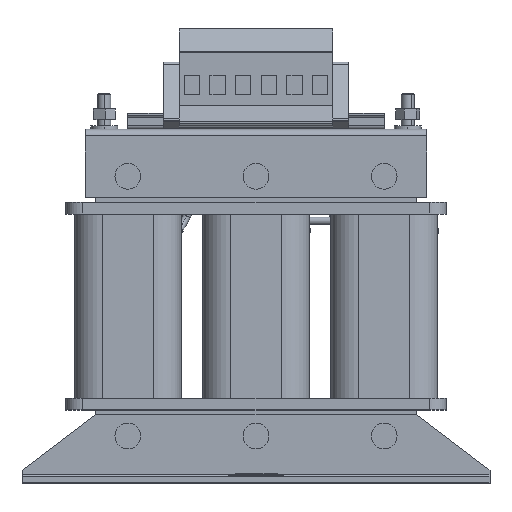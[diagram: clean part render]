
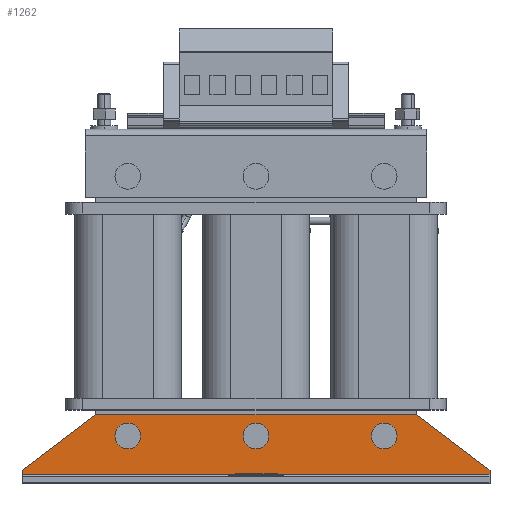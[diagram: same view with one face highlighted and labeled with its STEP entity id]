
A CAD part, top view. The second image highlights one B-rep face of the part: STEP entity #1262.
In plain terms, the highlighted planar face has unit normal (0, 0, 1).
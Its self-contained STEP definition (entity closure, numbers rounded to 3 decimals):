
#72 = CARTESIAN_POINT ( 'NONE',  ( -109.5, 4., 18.65 ) ) ;
#536 = EDGE_CURVE ( 'NONE', #16628, #12436, #6133, .T. ) ;
#608 = EDGE_LOOP ( 'NONE', ( #15287, #11006 ) ) ;
#676 = CARTESIAN_POINT ( 'NONE',  ( -66., 22., 18.65 ) ) ;
#1165 = DIRECTION ( 'NONE',  ( 0., 0., 1. ) ) ;
#1184 = LINE ( 'NONE', #6033, #13867 ) ;
#1262 = ADVANCED_FACE ( 'NONE', ( #15818, #13600, #13517, #4242 ), #8237, .T. ) ;
#1351 = EDGE_CURVE ( 'NONE', #16117, #6469, #4916, .T. ) ;
#1785 = DIRECTION ( 'NONE',  ( -1., 0., 0. ) ) ;
#1806 = EDGE_CURVE ( 'NONE', #13534, #8101, #7435, .T. ) ;
#2047 = CARTESIAN_POINT ( 'NONE',  ( 109.5, 6., 18.65 ) ) ;
#2114 = VERTEX_POINT ( 'NONE', #16104 ) ;
#2535 = ORIENTED_EDGE ( 'NONE', *, *, #16684, .F. ) ;
#2541 = CARTESIAN_POINT ( 'NONE',  ( -109.5, 6., 18.65 ) ) ;
#2706 = EDGE_CURVE ( 'NONE', #6469, #8101, #3726, .T. ) ;
#3047 = ORIENTED_EDGE ( 'NONE', *, *, #2706, .T. ) ;
#3229 = DIRECTION ( 'NONE',  ( 1., 0., 0. ) ) ;
#3316 = AXIS2_PLACEMENT_3D ( 'NONE', #13369, #10744, #15933 ) ;
#3328 = CIRCLE ( 'NONE', #16385, 6. ) ;
#3446 = CARTESIAN_POINT ( 'NONE',  ( 60., 22., 18.65 ) ) ;
#3489 = DIRECTION ( 'NONE',  ( -1., 0., 0. ) ) ;
#3700 = ORIENTED_EDGE ( 'NONE', *, *, #11972, .T. ) ;
#3726 = LINE ( 'NONE', #5002, #10227 ) ;
#3763 = CARTESIAN_POINT ( 'NONE',  ( -109.5, 0., 18.65 ) ) ;
#3789 = CARTESIAN_POINT ( 'NONE',  ( 75., 32., 18.65 ) ) ;
#3949 = VERTEX_POINT ( 'NONE', #2047 ) ;
#4074 = VERTEX_POINT ( 'NONE', #11636 ) ;
#4130 = AXIS2_PLACEMENT_3D ( 'NONE', #3446, #8787, #16714 ) ;
#4242 = FACE_OUTER_BOUND ( 'NONE', #10899, .T. ) ;
#4261 = CARTESIAN_POINT ( 'NONE',  ( 112.384, 3.827, 18.65 ) ) ;
#4331 = EDGE_CURVE ( 'NONE', #12436, #16628, #3328, .T. ) ;
#4413 = ORIENTED_EDGE ( 'NONE', *, *, #9155, .F. ) ;
#4916 = LINE ( 'NONE', #7229, #8603 ) ;
#5002 = CARTESIAN_POINT ( 'NONE',  ( 27.289, 109.087, 18.65 ) ) ;
#5361 = LINE ( 'NONE', #4261, #15050 ) ;
#5362 = VERTEX_POINT ( 'NONE', #13951 ) ;
#5698 = DIRECTION ( 'NONE',  ( -0.799, 0.602, 0. ) ) ;
#5921 = CARTESIAN_POINT ( 'NONE',  ( 0., 22., 18.65 ) ) ;
#6033 = CARTESIAN_POINT ( 'NONE',  ( 109.5, 0., 18.65 ) ) ;
#6133 = CIRCLE ( 'NONE', #9393, 6. ) ;
#6283 = VECTOR ( 'NONE', #1785, 1000. ) ;
#6416 = VECTOR ( 'NONE', #8947, 1000. ) ;
#6469 = VERTEX_POINT ( 'NONE', #8478 ) ;
#6670 = EDGE_CURVE ( 'NONE', #7406, #4074, #12409, .T. ) ;
#6761 = EDGE_LOOP ( 'NONE', ( #7391, #12934 ) ) ;
#6943 = EDGE_LOOP ( 'NONE', ( #8862, #4413 ) ) ;
#6945 = EDGE_CURVE ( 'NONE', #3949, #16117, #5361, .T. ) ;
#6966 = CARTESIAN_POINT ( 'NONE',  ( 109.5, 0., 18.65 ) ) ;
#7171 = CARTESIAN_POINT ( 'NONE',  ( 6., 22., 18.65 ) ) ;
#7229 = CARTESIAN_POINT ( 'NONE',  ( 109.5, 32., 18.65 ) ) ;
#7391 = ORIENTED_EDGE ( 'NONE', *, *, #536, .F. ) ;
#7406 = VERTEX_POINT ( 'NONE', #676 ) ;
#7435 = LINE ( 'NONE', #3763, #6416 ) ;
#7701 = DIRECTION ( 'NONE',  ( 0., 0., 1. ) ) ;
#7968 = AXIS2_PLACEMENT_3D ( 'NONE', #16657, #7701, #9059 ) ;
#8101 = VERTEX_POINT ( 'NONE', #2541 ) ;
#8237 = PLANE ( 'NONE',  #15930 ) ;
#8438 = ORIENTED_EDGE ( 'NONE', *, *, #6945, .T. ) ;
#8478 = CARTESIAN_POINT ( 'NONE',  ( -75., 32., 18.65 ) ) ;
#8562 = CARTESIAN_POINT ( 'NONE',  ( -6., 22., 18.65 ) ) ;
#8603 = VECTOR ( 'NONE', #3489, 1000. ) ;
#8787 = DIRECTION ( 'NONE',  ( 0., 0., 1. ) ) ;
#8862 = ORIENTED_EDGE ( 'NONE', *, *, #16632, .F. ) ;
#8910 = DIRECTION ( 'NONE',  ( 0., 1., 0. ) ) ;
#8947 = DIRECTION ( 'NONE',  ( 0., 1., 0. ) ) ;
#9059 = DIRECTION ( 'NONE',  ( 0., -1., 0. ) ) ;
#9155 = EDGE_CURVE ( 'NONE', #2114, #11715, #11471, .T. ) ;
#9393 = AXIS2_PLACEMENT_3D ( 'NONE', #11180, #10069, #13981 ) ;
#9432 = ORIENTED_EDGE ( 'NONE', *, *, #1351, .T. ) ;
#9795 = EDGE_CURVE ( 'NONE', #4074, #7406, #14501, .T. ) ;
#10069 = DIRECTION ( 'NONE',  ( 0., 0., 1. ) ) ;
#10189 = DIRECTION ( 'NONE',  ( 0., -1., 0. ) ) ;
#10227 = VECTOR ( 'NONE', #15379, 1000. ) ;
#10632 = LINE ( 'NONE', #14620, #6283 ) ;
#10744 = DIRECTION ( 'NONE',  ( 0., 0., 1. ) ) ;
#10899 = EDGE_LOOP ( 'NONE', ( #3700, #8438, #9432, #3047, #12572, #2535 ) ) ;
#11006 = ORIENTED_EDGE ( 'NONE', *, *, #6670, .F. ) ;
#11180 = CARTESIAN_POINT ( 'NONE',  ( 0., 22., 18.65 ) ) ;
#11471 = CIRCLE ( 'NONE', #4130, 6. ) ;
#11636 = CARTESIAN_POINT ( 'NONE',  ( -54., 22., 18.65 ) ) ;
#11715 = VERTEX_POINT ( 'NONE', #16617 ) ;
#11972 = EDGE_CURVE ( 'NONE', #5362, #3949, #1184, .T. ) ;
#12409 = CIRCLE ( 'NONE', #13218, 6. ) ;
#12436 = VERTEX_POINT ( 'NONE', #8562 ) ;
#12572 = ORIENTED_EDGE ( 'NONE', *, *, #1806, .F. ) ;
#12934 = ORIENTED_EDGE ( 'NONE', *, *, #4331, .F. ) ;
#13218 = AXIS2_PLACEMENT_3D ( 'NONE', #15621, #1165, #10189 ) ;
#13369 = CARTESIAN_POINT ( 'NONE',  ( 60., 22., 18.65 ) ) ;
#13517 = FACE_BOUND ( 'NONE', #608, .T. ) ;
#13534 = VERTEX_POINT ( 'NONE', #72 ) ;
#13600 = FACE_BOUND ( 'NONE', #6761, .T. ) ;
#13757 = DIRECTION ( 'NONE',  ( 0., -1., 0. ) ) ;
#13867 = VECTOR ( 'NONE', #8910, 1000. ) ;
#13900 = CIRCLE ( 'NONE', #3316, 6. ) ;
#13951 = CARTESIAN_POINT ( 'NONE',  ( 109.5, 4., 18.65 ) ) ;
#13981 = DIRECTION ( 'NONE',  ( 0., -1., 0. ) ) ;
#14501 = CIRCLE ( 'NONE', #7968, 6. ) ;
#14620 = CARTESIAN_POINT ( 'NONE',  ( 109.5, 4., 18.65 ) ) ;
#15050 = VECTOR ( 'NONE', #5698, 1000. ) ;
#15287 = ORIENTED_EDGE ( 'NONE', *, *, #9795, .F. ) ;
#15379 = DIRECTION ( 'NONE',  ( -0.799, -0.602, 0. ) ) ;
#15621 = CARTESIAN_POINT ( 'NONE',  ( -60., 22., 18.65 ) ) ;
#15818 = FACE_BOUND ( 'NONE', #6943, .T. ) ;
#15930 = AXIS2_PLACEMENT_3D ( 'NONE', #6966, #15987, #3229 ) ;
#15933 = DIRECTION ( 'NONE',  ( 0., -1., 0. ) ) ;
#15987 = DIRECTION ( 'NONE',  ( 0., 0., 1. ) ) ;
#16104 = CARTESIAN_POINT ( 'NONE',  ( 54., 22., 18.65 ) ) ;
#16117 = VERTEX_POINT ( 'NONE', #3789 ) ;
#16320 = DIRECTION ( 'NONE',  ( 0., 0., 1. ) ) ;
#16385 = AXIS2_PLACEMENT_3D ( 'NONE', #5921, #16320, #13757 ) ;
#16617 = CARTESIAN_POINT ( 'NONE',  ( 66., 22., 18.65 ) ) ;
#16628 = VERTEX_POINT ( 'NONE', #7171 ) ;
#16632 = EDGE_CURVE ( 'NONE', #11715, #2114, #13900, .T. ) ;
#16657 = CARTESIAN_POINT ( 'NONE',  ( -60., 22., 18.65 ) ) ;
#16684 = EDGE_CURVE ( 'NONE', #5362, #13534, #10632, .T. ) ;
#16714 = DIRECTION ( 'NONE',  ( 0., -1., 0. ) ) ;
